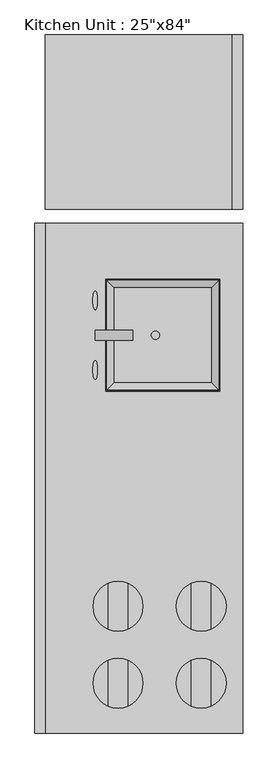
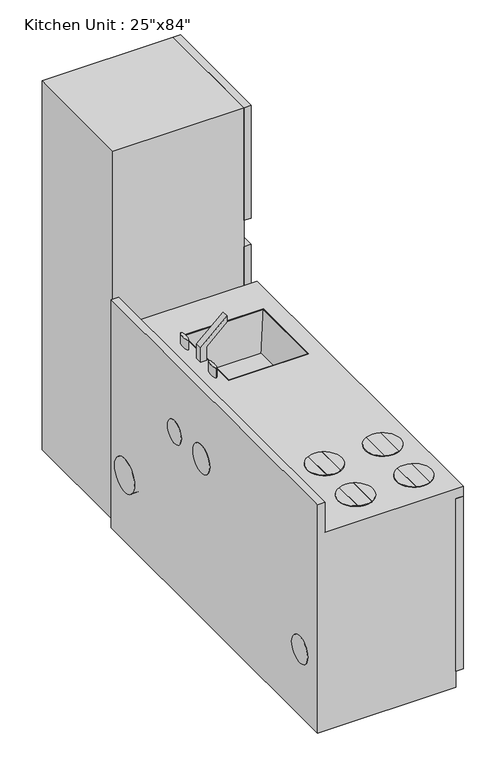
"""IFC4 building model written with IfcOpenShell, lengths in millimetres: flow terminal geometry."""

from ifc_helpers import new_model, si_unit, point, frame, frame_2d, origin, origin_with_axes, place, context, project, spatial, polyline, circle_curve, ellipse_curve, trimmed, segment, composite_curve, outline, extrude, faceted_brep, source, transform, mapped, element, save
from ifc_brep_helpers import plane_surface, revolved_surface, extruded_surface, advanced_brep


def flow_terminal_5101ce26(model_context):
    return source(origin(), model_context, "Body", "SolidModel", [
        advanced_brep(
        [(184.15, 359.56875, 960.4375), (184.15, 302.41875, 960.4375), (184.15, 359.56875, 914.4), (184.15, 302.41875, 914.4)],
        [
            (0, 1, ellipse_curve(frame((184.15, 330.99375, 960.4375), z_axis=(0.0, 0.0, 1.0), x_axis=(0.0, -1.0, 0.0)), 28.575, 7.14375)),
            (1, 0, ellipse_curve(frame((184.15, 330.99375, 960.4375), z_axis=(0.0, 0.0, 1.0), x_axis=(0.0, -1.0, 0.0)), 28.575, 7.14375)),
            (2, 3, ellipse_curve(frame((184.15, 330.99375, 914.4), z_axis=(0.0, 0.0, -1.0), x_axis=(0.0, -1.0, 0.0)), 28.575, 7.14375)),
            (3, 2, ellipse_curve(frame((184.15, 330.99375, 914.4), z_axis=(0.0, 0.0, -1.0), x_axis=(0.0, -1.0, 0.0)), 28.575, 7.14375)),
            (0, 2),
            (3, 1),
        ],
        [
            plane_surface(frame((184.15, 302.41875, 960.4375), z_axis=(0.0, 0.0, 1.0), x_axis=(1.0, 0.0, 0.0))),
            plane_surface(frame((184.15, 302.41875, 914.4), z_axis=(0.0, 0.0, -1.0), x_axis=(-1.0, 0.0, 0.0))),
            extruded_surface(trimmed(ellipse_curve(frame((184.15, 330.99375, 868.3625), z_axis=(0.0, 0.0, 1.0), x_axis=(0.0, -1.0, 0.0)), 28.575, 7.14375), [point((184.15, 359.56875, 868.3625))], [point((184.15, 302.41875, 868.3625))], True, "CARTESIAN"), (0.0, 0.0, 46.03750000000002), 46.03750000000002),
            extruded_surface(trimmed(ellipse_curve(frame((184.15, 330.99375, 868.3625), z_axis=(0.0, 0.0, 1.0), x_axis=(0.0, -1.0, 0.0)), 28.575, 7.14375), [point((184.15, 302.41875, 868.3625))], [point((184.15, 359.56875, 868.3625))], True, "CARTESIAN"), (0.0, 0.0, 46.03750000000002), 46.03750000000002),
        ],
        [
            (0, [[1, 2]]),
            (1, [[3, 4]]),
            (2, [[-1, 5, -4, 6]]),
            (3, [[-2, -6, -3, -5]]),
        ],
    ),
        advanced_brep(
        [(184.15, 572.29375, 960.4375), (184.15, 515.14375, 960.4375), (184.15, 572.29375, 914.4), (184.15, 515.14375, 914.4)],
        [
            (0, 1, ellipse_curve(frame((184.15, 543.71875, 960.4375), z_axis=(0.0, 0.0, 1.0), x_axis=(0.0, -1.0, 0.0)), 28.575, 7.14375)),
            (1, 0, ellipse_curve(frame((184.15, 543.71875, 960.4375), z_axis=(0.0, 0.0, 1.0), x_axis=(0.0, -1.0, 0.0)), 28.575, 7.14375)),
            (2, 3, ellipse_curve(frame((184.15, 543.71875, 914.4), z_axis=(0.0, 0.0, -1.0), x_axis=(0.0, -1.0, 0.0)), 28.575, 7.14375)),
            (3, 2, ellipse_curve(frame((184.15, 543.71875, 914.4), z_axis=(0.0, 0.0, -1.0), x_axis=(0.0, -1.0, 0.0)), 28.575, 7.14375)),
            (0, 2),
            (3, 1),
        ],
        [
            plane_surface(frame((184.15, 515.14375, 960.4375), z_axis=(0.0, 0.0, 1.0), x_axis=(1.0, 0.0, 0.0))),
            plane_surface(frame((184.15, 515.14375, 914.4), z_axis=(0.0, 0.0, -1.0), x_axis=(-1.0, 0.0, 0.0))),
            extruded_surface(trimmed(ellipse_curve(frame((184.15, 543.71875, 868.3625), z_axis=(0.0, 0.0, 1.0), x_axis=(0.0, -1.0, 0.0)), 28.575, 7.14375), [point((184.15, 572.29375, 868.3625))], [point((184.15, 515.14375, 868.3625))], True, "CARTESIAN"), (0.0, 0.0, 46.03750000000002), 46.03750000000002),
            extruded_surface(trimmed(ellipse_curve(frame((184.15, 543.71875, 868.3625), z_axis=(0.0, 0.0, 1.0), x_axis=(0.0, -1.0, 0.0)), 28.575, 7.14375), [point((184.15, 515.14375, 868.3625))], [point((184.15, 572.29375, 868.3625))], True, "CARTESIAN"), (0.0, 0.0, 46.03750000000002), 46.03750000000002),
        ],
        [
            (0, [[1, 2]]),
            (1, [[3, 4]]),
            (2, [[-1, 5, -4, 6]]),
            (3, [[-2, -6, -3, -5]]),
        ],
    ),
        extrude(outline(polyline([(914.4, 209.55), (977.9, 209.55), (1060.8005912, 298.45), (1087.7880912, 298.45), (981.2016168, 184.15), (914.4, 184.15), (914.4, 209.55)])), frame((0.0, 422.275, 0.0), z_axis=(0.0, 1.0, 0.0), x_axis=(0.0, 0.0, 1.0)), (0.0, 0.0, 1.0), 30.1625),
        extrude(outline(polyline([(635.0, 1354.93125), (635.0, 821.53125), (603.25, 821.53125), (603.25, 1354.93125), (635.0, 1354.93125)])), frame((0.0, 0.0, 114.3), z_axis=(0.0, 0.0, 1.0), x_axis=(1.0, 0.0, 0.0)), (0.0, 0.0, 1.0), 942.975),
        extrude(outline(polyline([(635.0, 1354.93125), (635.0, 821.53125), (603.25, 821.53125), (603.25, 1354.93125), (635.0, 1354.93125)])), frame((0.0, 0.0, 1178.71875), z_axis=(0.0, 0.0, 1.0), x_axis=(1.0, 0.0, 0.0)), (0.0, 0.0, 1.0), 519.90625),
        extrude(outline(polyline([(603.25, 821.53125), (31.75, 821.53125), (31.75, 1354.93125), (603.25, 1354.93125), (603.25, 821.53125)])), origin_with_axes(), (0.0, 0.0, 1.0), 1698.625),
        extrude(outline(composite_curve([segment(polyline([(477.8375, -696.2449145), (477.8375, -556.2925855)]), True, "CONTINUOUS"), segment(trimmed(circle_curve(frame_2d((508.0, -626.26875)), 76.2), [point((477.8375, -556.2925855))], [point((538.1625, -556.2925855))], False, "CARTESIAN"), True, "CONTINUOUS"), segment(polyline([(538.1625, -556.2925855), (538.1625, -696.2449145)]), True, "CONTINUOUS"), segment(trimmed(circle_curve(frame_2d((508.0, -626.26875)), 76.2), [point((538.1625, -696.2449145))], [point((477.8375, -696.2449145))], False, "CARTESIAN"), True, "CONTINUOUS")], self_intersect=False)), frame((0.0, 0.0, 914.4), z_axis=(0.0, 0.0, 1.0), x_axis=(1.0, 0.0, 0.0)), (0.0, 0.0, 1.0), 3.175),
        extrude(outline(composite_curve([segment(trimmed(circle_curve(frame_2d((508.0, -626.26875)), 76.2), [point((477.8375, -696.2449145))], [point((477.8375, -556.2925855))], False, "CARTESIAN"), True, "CONTINUOUS"), segment(polyline([(477.8375, -556.2925855), (477.8375, -696.2449145)]), True, "CONTINUOUS")], self_intersect=False)), frame((0.0, 0.0, 914.4), z_axis=(0.0, 0.0, 1.0), x_axis=(1.0, 0.0, 0.0)), (0.0, 0.0, 1.0), 3.175),
        extrude(outline(composite_curve([segment(polyline([(538.1625, -696.2449145), (538.1625, -556.2925855)]), True, "CONTINUOUS"), segment(trimmed(circle_curve(frame_2d((508.0, -626.26875)), 76.2), [point((538.1625, -556.2925855))], [point((538.1625, -696.2449145))], False, "CARTESIAN"), True, "CONTINUOUS")], self_intersect=False)), frame((0.0, 0.0, 914.4), z_axis=(0.0, 0.0, 1.0), x_axis=(1.0, 0.0, 0.0)), (0.0, 0.0, 1.0), 3.175),
        extrude(outline(composite_curve([segment(trimmed(circle_curve(frame_2d((254.0, -391.31875)), 76.2), [point((284.1625, -461.2949145))], [point((223.8375, -461.2949145))], False, "CARTESIAN"), True, "CONTINUOUS"), segment(polyline([(223.8375, -461.2949145), (223.8375, -321.3425855)]), True, "CONTINUOUS"), segment(trimmed(circle_curve(frame_2d((254.0, -391.31875)), 76.2), [point((223.8375, -321.3425855))], [point((284.1625, -321.3425855))], False, "CARTESIAN"), True, "CONTINUOUS"), segment(polyline([(284.1625, -321.3425855), (284.1625, -461.2949145)]), True, "CONTINUOUS")], self_intersect=False)), frame((0.0, 0.0, 914.4), z_axis=(0.0, 0.0, 1.0), x_axis=(1.0, 0.0, 0.0)), (0.0, 0.0, 1.0), 3.175),
        extrude(outline(composite_curve([segment(trimmed(circle_curve(frame_2d((508.0, -391.31875)), 76.2), [point((538.1625, -461.2949145))], [point((477.8375, -461.2949145))], False, "CARTESIAN"), True, "CONTINUOUS"), segment(polyline([(477.8375, -461.2949145), (477.8375, -321.3425855)]), True, "CONTINUOUS"), segment(trimmed(circle_curve(frame_2d((508.0, -391.31875)), 76.2), [point((477.8375, -321.3425855))], [point((538.1625, -321.3425855))], False, "CARTESIAN"), True, "CONTINUOUS"), segment(polyline([(538.1625, -321.3425855), (538.1625, -461.2949145)]), True, "CONTINUOUS")], self_intersect=False)), frame((0.0, 0.0, 914.4), z_axis=(0.0, 0.0, 1.0), x_axis=(1.0, 0.0, 0.0)), (0.0, 0.0, 1.0), 3.175),
        extrude(outline(composite_curve([segment(trimmed(circle_curve(frame_2d((254.0, -391.31875)), 76.2), [point((223.8375, -461.2949145))], [point((223.8375, -321.3425855))], False, "CARTESIAN"), True, "CONTINUOUS"), segment(polyline([(223.8375, -321.3425855), (223.8375, -461.2949145)]), True, "CONTINUOUS")], self_intersect=False)), frame((0.0, 0.0, 914.4), z_axis=(0.0, 0.0, 1.0), x_axis=(1.0, 0.0, 0.0)), (0.0, 0.0, 1.0), 3.175),
        extrude(outline(composite_curve([segment(trimmed(circle_curve(frame_2d((508.0, -391.31875)), 76.2), [point((477.8375, -461.2949145))], [point((477.8375, -321.3425855))], False, "CARTESIAN"), True, "CONTINUOUS"), segment(polyline([(477.8375, -321.3425855), (477.8375, -461.2949145)]), True, "CONTINUOUS")], self_intersect=False)), frame((0.0, 0.0, 914.4), z_axis=(0.0, 0.0, 1.0), x_axis=(1.0, 0.0, 0.0)), (0.0, 0.0, 1.0), 3.175),
        extrude(outline(composite_curve([segment(trimmed(circle_curve(frame_2d((254.0, -391.31875)), 76.2), [point((284.1625, -321.3425855))], [point((284.1625, -461.2949145))], False, "CARTESIAN"), True, "CONTINUOUS"), segment(polyline([(284.1625, -461.2949145), (284.1625, -321.3425855)]), True, "CONTINUOUS")], self_intersect=False)), frame((0.0, 0.0, 914.4), z_axis=(0.0, 0.0, 1.0), x_axis=(1.0, 0.0, 0.0)), (0.0, 0.0, 1.0), 3.175),
        extrude(outline(composite_curve([segment(trimmed(circle_curve(frame_2d((508.0, -391.31875)), 76.2), [point((538.1625, -321.3425855))], [point((538.1625, -461.2949145))], False, "CARTESIAN"), True, "CONTINUOUS"), segment(polyline([(538.1625, -461.2949145), (538.1625, -321.3425855)]), True, "CONTINUOUS")], self_intersect=False)), frame((0.0, 0.0, 914.4), z_axis=(0.0, 0.0, 1.0), x_axis=(1.0, 0.0, 0.0)), (0.0, 0.0, 1.0), 3.175),
        extrude(outline(composite_curve([segment(polyline([(223.8375, -696.2449145), (223.8375, -556.2925855)]), True, "CONTINUOUS"), segment(trimmed(circle_curve(frame_2d((254.0, -626.26875)), 76.2), [point((223.8375, -556.2925855))], [point((284.1625, -556.2925855))], False, "CARTESIAN"), True, "CONTINUOUS"), segment(polyline([(284.1625, -556.2925855), (284.1625, -696.2449145)]), True, "CONTINUOUS"), segment(trimmed(circle_curve(frame_2d((254.0, -626.26875)), 76.2), [point((284.1625, -696.2449145))], [point((223.8375, -696.2449145))], False, "CARTESIAN"), True, "CONTINUOUS")], self_intersect=False)), frame((0.0, 0.0, 914.4), z_axis=(0.0, 0.0, 1.0), x_axis=(1.0, 0.0, 0.0)), (0.0, 0.0, 1.0), 3.175),
        extrude(outline(composite_curve([segment(trimmed(circle_curve(frame_2d((254.0, -626.26875)), 76.2), [point((223.8375, -696.2449145))], [point((223.8375, -556.2925855))], False, "CARTESIAN"), True, "CONTINUOUS"), segment(polyline([(223.8375, -556.2925855), (223.8375, -696.2449145)]), True, "CONTINUOUS")], self_intersect=False)), frame((0.0, 0.0, 914.4), z_axis=(0.0, 0.0, 1.0), x_axis=(1.0, 0.0, 0.0)), (0.0, 0.0, 1.0), 3.175),
        extrude(outline(composite_curve([segment(trimmed(circle_curve(frame_2d((254.0, -626.26875)), 76.2), [point((284.1625, -556.2925855))], [point((284.1625, -696.2449145))], False, "CARTESIAN"), True, "CONTINUOUS"), segment(polyline([(284.1625, -696.2449145), (284.1625, -556.2925855)]), True, "CONTINUOUS")], self_intersect=False)), frame((0.0, 0.0, 914.4), z_axis=(0.0, 0.0, 1.0), x_axis=(1.0, 0.0, 0.0)), (0.0, 0.0, 1.0), 3.175),
        advanced_brep(
        [(542.925, 585.7875, 731.8375), (542.925, 288.925, 731.8375), (238.125, 288.925, 731.8375), (238.125, 585.7875, 731.8375), (355.6, 437.35625, 731.8375), (381.0, 437.35625, 731.8375), (565.15, 608.0125, 914.4), (215.9, 608.0125, 914.4), (215.9, 266.7, 914.4), (565.15, 266.7, 914.4), (561.975, 604.8375, 914.4), (561.975, 269.875, 914.4), (219.075, 269.875, 914.4), (219.075, 604.8375, 914.4), (539.75, 582.6125, 735.0125), (241.3, 582.6125, 735.0125), (241.3, 292.1, 735.0125), (539.75, 292.1, 735.0125), (381.0, 437.35625, 735.0125), (355.6, 437.35625, 735.0125)],
        [
            (0, 1),
            (1, 2),
            (2, 3),
            (3, 0),
            (4, 5, circle_curve(frame((368.3, 437.35625, 731.8375), z_axis=(0.0, 0.0, 1.0), x_axis=(1.0, 0.0, 0.0)), 12.7)),
            (5, 4, circle_curve(frame((368.3, 437.35625, 731.8375), z_axis=(0.0, 0.0, 1.0), x_axis=(1.0, 0.0, 0.0)), 12.7)),
            (6, 7),
            (7, 8),
            (8, 9),
            (9, 6),
            (10, 11),
            (11, 12),
            (12, 13),
            (13, 10),
            (0, 6),
            (9, 1),
            (8, 2),
            (7, 3),
            (14, 15),
            (15, 16),
            (16, 17),
            (17, 14),
            (18, 19, circle_curve(frame((368.3, 437.35625, 735.0125), z_axis=(0.0, 0.0, -1.0), x_axis=(1.0, 0.0, 0.0)), 12.7)),
            (19, 18, circle_curve(frame((368.3, 437.35625, 735.0125), z_axis=(0.0, 0.0, -1.0), x_axis=(1.0, 0.0, 0.0)), 12.7)),
            (17, 11),
            (10, 14),
            (16, 12),
            (15, 13),
            (4, 19),
            (18, 5),
        ],
        [
            plane_surface(frame((390.525, 437.35625, 731.8375), z_axis=(0.0, 0.0, -1.0), x_axis=(-1.0, 0.0, 0.0))),
            plane_surface(frame((390.525, 437.35625, 914.4), z_axis=(0.0, 0.0, 1.0), x_axis=(-1.0, 0.0, 0.0))),
            plane_surface(frame((565.15, 437.35625, 914.4), z_axis=(0.9926711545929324, 0.0, -0.1208469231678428), x_axis=(0.0, -1.0, 0.0))),
            plane_surface(frame((390.525, 266.7, 914.4), z_axis=(0.0, -0.9926711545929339, -0.12084692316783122), x_axis=(-1.0, 0.0, 0.0))),
            plane_surface(frame((215.9, 437.35625, 914.4), z_axis=(-0.9926711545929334, 0.0, -0.12084692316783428), x_axis=(0.0, 1.0, 0.0))),
            plane_surface(frame((390.525, 608.0125, 914.4), z_axis=(0.0, 0.9926711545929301, -0.12084692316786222), x_axis=(1.0, 0.0, 0.0))),
            plane_surface(frame((390.525, 437.35625, 735.0125), z_axis=(0.0, 0.0, 1.0), x_axis=(-1.0, 0.0, 0.0))),
            plane_surface(frame((561.975, 437.35625, 914.4), z_axis=(-0.9924124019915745, 0.0, 0.12295374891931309), x_axis=(0.0, -1.0, 0.0))),
            plane_surface(frame((390.525, 269.875, 914.4), z_axis=(0.0, 0.992412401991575, 0.12295374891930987), x_axis=(-1.0, 0.0, 0.0))),
            plane_surface(frame((219.075, 437.35625, 914.4), z_axis=(0.9924124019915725, 0.0, 0.12295374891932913), x_axis=(0.0, 1.0, 0.0))),
            plane_surface(frame((390.525, 604.8375, 914.4), z_axis=(0.0, -0.9924124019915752, 0.12295374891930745), x_axis=(1.0, 0.0, 0.0))),
            revolved_surface(polyline([(381.0, 437.35625, 735.0125), (381.0, 437.35625, 731.8375)]), (368.3, 437.35625, 731.8375), (0.0, 0.0, 1.0)),
        ],
        [
            (0, [[1, 2, 3, 4], [5, 6]]),
            (1, [[7, 8, 9, 10], [11, 12, 13, 14]]),
            (2, [[-1, 15, -10, 16]]),
            (3, [[-2, -16, -9, 17]]),
            (4, [[-3, -17, -8, 18]]),
            (5, [[-4, -18, -7, -15]]),
            (6, [[19, 20, 21, 22], [23, 24]]),
            (7, [[-22, 25, -11, 26]]),
            (8, [[-21, 27, -12, -25]]),
            (9, [[-20, 28, -13, -27]]),
            (10, [[-19, -26, -14, -28]]),
            (11, [[29, -23, 30, -5]]),
            (11, [[-29, -6, -30, -24]]),
        ],
    ),
        extrude(outline(composite_curve([segment(trimmed(circle_curve(frame_2d((677.06875, 304.8)), 76.2), [point((600.86875, 304.8))], [point((753.26875, 304.8))], False, "CARTESIAN"), True, "CONTINUOUS"), segment(trimmed(circle_curve(frame_2d((677.06875, 304.8)), 76.2), [point((753.26875, 304.8))], [point((600.86875, 304.8))], False, "CARTESIAN"), True, "CONTINUOUS")], self_intersect=False)), frame((0.0, 0.0, 0.0), z_axis=(1.0, 0.0, 0.0), x_axis=(0.0, 1.0, 0.0)), (0.0, 0.0, 1.0), 89.0058539),
        extrude(outline(composite_curve([segment(trimmed(circle_curve(frame_2d((-645.31875, 304.8)), 61.11875), [point((-706.4375, 304.8))], [point((-584.2, 304.8))], False, "CARTESIAN"), True, "CONTINUOUS"), segment(trimmed(circle_curve(frame_2d((-645.31875, 304.8)), 61.11875), [point((-584.2, 304.8))], [point((-706.4375, 304.8))], False, "CARTESIAN"), True, "CONTINUOUS")], self_intersect=False)), frame((0.0, 0.0, 0.0), z_axis=(1.0, 0.0, 0.0), x_axis=(0.0, 1.0, 0.0)), (0.0, 0.0, 1.0), 89.0058539),
        extrude(outline(composite_curve([segment(trimmed(circle_curve(frame_2d((300.83125, 731.8375)), 52.2429825), [point((248.5882675, 731.8375))], [point((353.0742325, 731.8375))], False, "CARTESIAN"), True, "CONTINUOUS"), segment(trimmed(circle_curve(frame_2d((300.83125, 731.8375)), 52.2429825), [point((353.0742325, 731.8375))], [point((248.5882675, 731.8375))], False, "CARTESIAN"), True, "CONTINUOUS")], self_intersect=False)), frame((0.0, 0.0, 0.0), z_axis=(1.0, 0.0, 0.0), x_axis=(0.0, 1.0, 0.0)), (0.0, 0.0, 1.0), 74.4383647),
        extrude(outline(composite_curve([segment(trimmed(circle_curve(frame_2d((97.63125, 731.8375)), 63.9843249), [point((33.6469251, 731.8375))], [point((161.6155749, 731.8375))], False, "CARTESIAN"), True, "CONTINUOUS"), segment(trimmed(circle_curve(frame_2d((97.63125, 731.8375)), 63.9843249), [point((161.6155749, 731.8375))], [point((33.6469251, 731.8375))], False, "CARTESIAN"), True, "CONTINUOUS")], self_intersect=False)), frame((0.0, 0.0, 0.0), z_axis=(1.0, 0.0, 0.0), x_axis=(0.0, 1.0, 0.0)), (0.0, 0.0, 1.0), 74.4383647),
        extrude(outline(polyline([(635.0, -329.40625), (635.0, -735.80625), (603.25, -735.80625), (603.25, -329.40625), (635.0, -329.40625)])), frame((0.0, 0.0, 365.91875), z_axis=(0.0, 0.0, 1.0), x_axis=(1.0, 0.0, 0.0)), (0.0, 0.0, 1.0), 411.1625),
        extrude(outline(polyline([(-778.66875, 73.025), (-778.66875, 868.3625), (-286.54375, 868.3625), (-286.54375, 73.025), (-778.66875, 73.025)]), holes=[polyline([(-329.40625, 777.08125), (-735.80625, 777.08125), (-735.80625, 365.91875), (-329.40625, 365.91875), (-329.40625, 777.08125)])]), frame((603.25, 0.0, 0.0), z_axis=(1.0, 0.0, 0.0), x_axis=(0.0, 1.0, 0.0)), (0.0, 0.0, 1.0), 31.75),
        extrude(outline(polyline([(603.25, 778.66875), (635.0, 778.66875), (635.0, -277.01875), (603.25, -277.01875), (603.25, 778.66875)])), frame((0.0, 0.0, 73.025), z_axis=(0.0, 0.0, 1.0), x_axis=(1.0, 0.0, 0.0)), (0.0, 0.0, 1.0), 795.3375),
        faceted_brep([(0.0, -778.66875, 1051.71875), (0.0, -778.66875, 0.0), (603.25, -778.66875, 0.0), (603.25, -778.66875, 868.3625), (635.0, -778.66875, 868.3625), (635.0, -778.66875, 914.4), (31.75, -778.66875, 914.4), (31.75, -778.66875, 1051.71875), (0.0, 778.66875, 1051.71875), (31.75, 778.66875, 1051.71875), (31.75, 778.66875, 914.4), (635.0, 778.66875, 914.4), (635.0, 778.66875, 868.3625), (603.25, 778.66875, 868.3625), (603.25, 778.66875, 0.0), (0.0, 778.66875, 0.0), (215.9, 608.0125, 914.4), (565.15, 608.0125, 914.4), (565.15, 266.7, 914.4), (215.9, 266.7, 914.4), (542.925, 585.7875, 731.8375), (238.125, 585.7875, 731.8375), (238.125, 288.925, 731.8375), (542.925, 288.925, 731.8375)], [[[0, 1, 2, 3, 4, 5, 6, 7]], [[8, 9, 10, 11, 12, 13, 14, 15]], [[1, 0, 8, 15]], [[2, 1, 15, 14]], [[2, 14, 13, 3]], [[11, 5, 4, 12]], [[6, 5, 11, 10], [16, 17, 18, 19]], [[7, 6, 10, 9]], [[0, 7, 9, 8]], [[3, 13, 12, 4]], [[20, 21, 22, 23]], [[21, 20, 17, 16]], [[22, 21, 16, 19]], [[23, 22, 19, 18]], [[20, 23, 18, 17]]]),
    ])


if __name__ == "__main__":
    model = new_model("IFC4")
    model_context = context("Model", 3, world=origin())
    ifc_project = project(units=[si_unit("LENGTHUNIT", "METRE", prefix="MILLI")], contexts=[model_context])
    site = spatial("IfcSite", under=ifc_project)
    building = spatial("IfcBuilding", under=site)
    placement = place(None, origin())
    flow_terminal_shape = flow_terminal_5101ce26(model_context)
    element("IfcFlowTerminal", 1, ObjectType="Kitchen Unit : 25\"x84\"", at=placement, inside=building, context=model_context, shape_type="MappedRepresentation", body=[
        mapped(flow_terminal_shape, transform((0.0, 0.0, 0.0), x_axis=(1.0, 0.0, 0.0), y_axis=(0.0, 1.0, 0.0), z_axis=(0.0, 0.0, 1.0))),
    ])
    save(model, "model.ifc")
